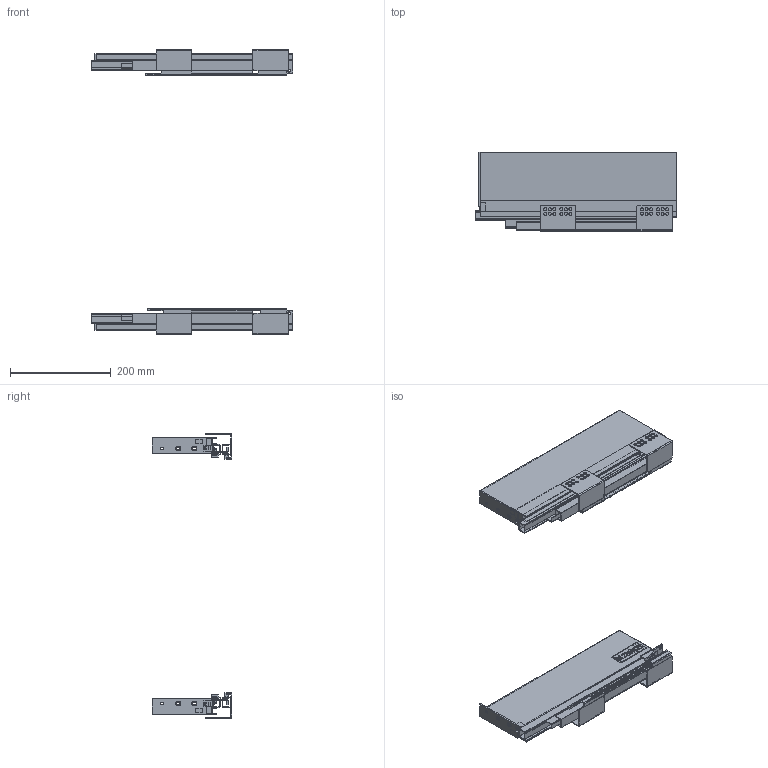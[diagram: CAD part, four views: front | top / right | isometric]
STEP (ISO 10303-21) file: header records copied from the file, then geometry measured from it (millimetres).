
FILE_DESCRIPTION(/* description */ (''),/* implementation_level */ '2;1');
FILE_NAME(/* name */ 'C:\Users\dmitruk\Documents\WORK\\X2\041D0410041F042004100412041B042F042E042904180415\X0\\SLIMBOX\SLIMBOX\SLIMBOX H128 L-400.stp',/* time_stamp */ '2022-04-19T17:21:09+03:00',/* author */ ('dmitruk'),/* organization */ ('AKS'),/* preprocessor_version */ 'ST-DEVELOPER v16.5',/* originating_system */ 'Autodesk Inventor 2017',/* authorisation */ '');
FILE_SCHEMA (('AUTOMOTIVE_DESIGN { 1 0 10303 214 3 1 1 }'));
Length unit declared in the file: millimetre
Products named in the file (12): SLIMBOX 90 мм правый; Боковина SLIMBOX _2; Направляющие \X2\0441043A
0440044B0442043E0433043E\X0\ монтажа \X2\043F
043E043B043D043E0433043E\X0\ \X2\0432044B04340432043804360435043D0438044F
\X0\ SLIMBOX-01; CR SLIMBOX-400; DR SLIMBOX; Крепление \X2\04440430
0441043004340430\X0\ SLIMBOX прав; CR SLIMBOX-500; DL SLIMBOX; Крепление \X2\04440430
0441043004340430\X0\ SLIMBOX лев; slim DW; Крепление к 
фасаду; Заглушка SLIMBOX
Assembly tree (14 placements, depth 3):
  SLIMBOX 90 мм правый
    Боковина SLIMBOX _2
    Направляющие \X2\0441043A
0440044B0442043E0433043E\X0\ монтажа \X2\043F
043E043B043D043E0433043E\X0\ \X2\0432044B04340432043804360435043D0438044F
\X0\ SLIMBOX-01
      CR SLIMBOX-400
      DR SLIMBOX
      slim DW  x2
      Крепление \X2\04440430
0441043004340430\X0\ SLIMBOX прав
      CR SLIMBOX-500
      DL SLIMBOX
      Крепление \X2\04440430
0441043004340430\X0\ SLIMBOX лев
    Крепление к 
фасаду  x2
    Заглушка SLIMBOX  x2
Bounding box: 400 x 157.5 x 564 mm (x, y, z)
Volume: 532045.9 mm3; surface area: 776063.5 mm2
Topology: 30 solids, 30 shells, 1327 faces, 3647 edges, 2435 vertices
Faces by surface type: plane 961, cylinder 350, cone 16
Full cylindrical faces by diameter (mm): 3 x2, 3.8 x4, 4 x4, 4.8 x4, 6 x48, 7.603 x4, 7.801 x2, 8.085 x2, 10.37 x2, 11 x4, 12.231 x2
Entity records: 35044 total; most frequent: CARTESIAN_POINT 5979, ORIENTED_EDGE 5782, DIRECTION 5679, EDGE_CURVE 2891, LINE 2349, VECTOR 2349, VERTEX_POINT 1965, AXIS2_PLACEMENT_3D 1665
